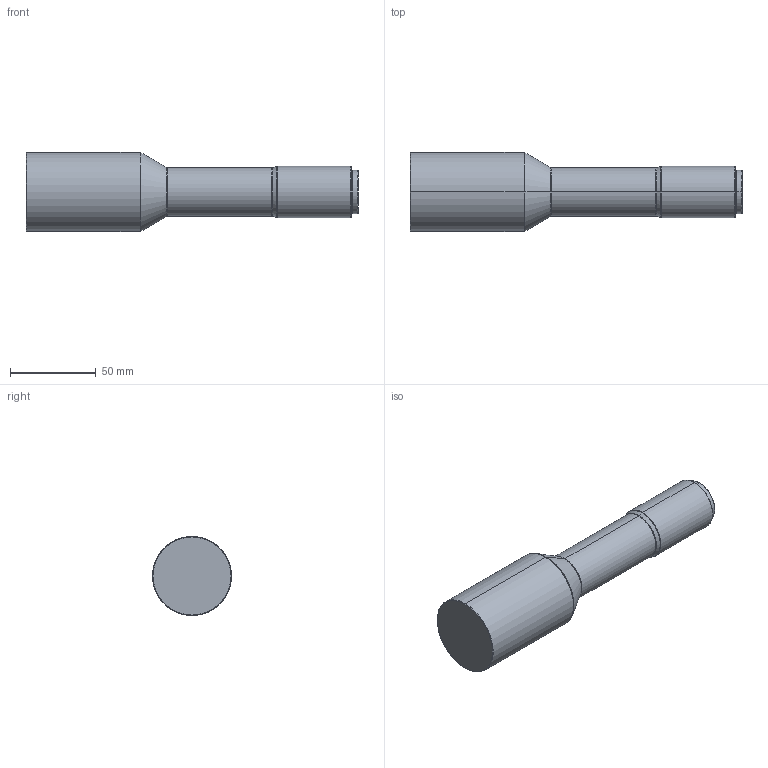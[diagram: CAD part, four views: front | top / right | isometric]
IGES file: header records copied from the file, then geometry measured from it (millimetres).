
Start section: SolidWorks IGES file using analytic representation for surfaces
Global section: file name: C:\Users\16255\Desktop\WWH098-280AT-230V2.IGS; native system: SolidWorks 2017; preprocessor: SolidWorks 2017; author: 16255; date: 211223.164304; units: millimetre
Bounding box: 193.2 x 46 x 46 mm (x, y, z)
Surface area: 24131.2 mm2 (no closed solid volume)
Topology: 0 solids, 0 shells, 32 faces, 368 edges, 368 vertices
Faces by surface type: revolution 20, bspline 12
